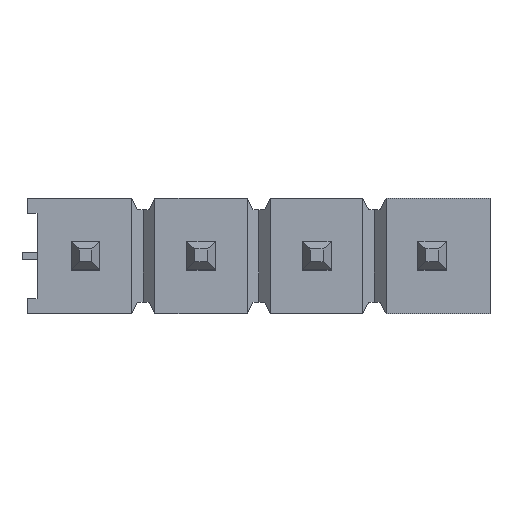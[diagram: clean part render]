
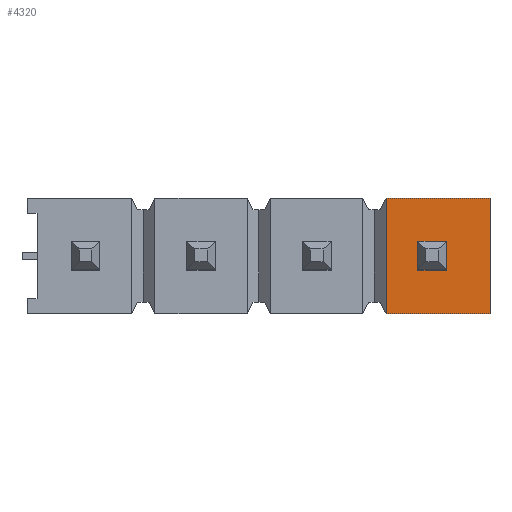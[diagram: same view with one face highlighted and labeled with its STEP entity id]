
A CAD part, top view. The second image highlights one B-rep face of the part: STEP entity #4320.
In plain terms, the highlighted planar face has unit normal (0, 0, 1).
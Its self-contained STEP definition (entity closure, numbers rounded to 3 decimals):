
#4052 = VERTEX_POINT('',#4053);
#4053 = CARTESIAN_POINT('',(2.794,-1.249,2.58));
#4059 = EDGE_CURVE('',#4060,#4052,#4062,.T.);
#4060 = VERTEX_POINT('',#4061);
#4061 = CARTESIAN_POINT('',(2.794,1.291,2.58));
#4062 = LINE('',#4063,#4064);
#4063 = CARTESIAN_POINT('',(2.794,0.021,2.58));
#4064 = VECTOR('',#4065,1.);
#4065 = DIRECTION('',(0.,-1.,0.));
#4320 = ADVANCED_FACE('',(#4321,#4346),#4380,.T.);
#4321 = FACE_BOUND('',#4322,.T.);
#4322 = EDGE_LOOP('',(#4323,#4331,#4332,#4340));
#4323 = ORIENTED_EDGE('',*,*,#4324,.T.);
#4324 = EDGE_CURVE('',#4325,#4060,#4327,.T.);
#4325 = VERTEX_POINT('',#4326);
#4326 = CARTESIAN_POINT('',(5.08,1.291,2.58));
#4327 = LINE('',#4328,#4329);
#4328 = CARTESIAN_POINT('',(5.08,1.291,2.58));
#4329 = VECTOR('',#4330,1.);
#4330 = DIRECTION('',(-1.,0.,0.));
#4331 = ORIENTED_EDGE('',*,*,#4059,.T.);
#4332 = ORIENTED_EDGE('',*,*,#4333,.T.);
#4333 = EDGE_CURVE('',#4052,#4334,#4336,.T.);
#4334 = VERTEX_POINT('',#4335);
#4335 = CARTESIAN_POINT('',(5.08,-1.249,2.58));
#4336 = LINE('',#4337,#4338);
#4337 = CARTESIAN_POINT('',(-5.08,-1.249,2.58));
#4338 = VECTOR('',#4339,1.);
#4339 = DIRECTION('',(1.,0.,0.));
#4340 = ORIENTED_EDGE('',*,*,#4341,.T.);
#4341 = EDGE_CURVE('',#4334,#4325,#4342,.T.);
#4342 = LINE('',#4343,#4344);
#4343 = CARTESIAN_POINT('',(5.08,-1.249,2.58));
#4344 = VECTOR('',#4345,1.);
#4345 = DIRECTION('',(0.,1.,0.));
#4346 = FACE_BOUND('',#4347,.T.);
#4347 = EDGE_LOOP('',(#4348,#4358,#4366,#4374));
#4348 = ORIENTED_EDGE('',*,*,#4349,.F.);
#4349 = EDGE_CURVE('',#4350,#4352,#4354,.T.);
#4350 = VERTEX_POINT('',#4351);
#4351 = CARTESIAN_POINT('',(4.128,0.339,2.58));
#4352 = VERTEX_POINT('',#4353);
#4353 = CARTESIAN_POINT('',(3.493,0.339,2.58));
#4354 = LINE('',#4355,#4356);
#4355 = CARTESIAN_POINT('',(4.128,0.339,2.58));
#4356 = VECTOR('',#4357,1.);
#4357 = DIRECTION('',(-1.,0.,0.));
#4358 = ORIENTED_EDGE('',*,*,#4359,.F.);
#4359 = EDGE_CURVE('',#4360,#4350,#4362,.T.);
#4360 = VERTEX_POINT('',#4361);
#4361 = CARTESIAN_POINT('',(4.128,-0.297,2.58));
#4362 = LINE('',#4363,#4364);
#4363 = CARTESIAN_POINT('',(4.128,-0.297,2.58));
#4364 = VECTOR('',#4365,1.);
#4365 = DIRECTION('',(0.,1.,0.));
#4366 = ORIENTED_EDGE('',*,*,#4367,.F.);
#4367 = EDGE_CURVE('',#4368,#4360,#4370,.T.);
#4368 = VERTEX_POINT('',#4369);
#4369 = CARTESIAN_POINT('',(3.493,-0.297,2.58));
#4370 = LINE('',#4371,#4372);
#4371 = CARTESIAN_POINT('',(3.493,-0.297,2.58));
#4372 = VECTOR('',#4373,1.);
#4373 = DIRECTION('',(1.,0.,0.));
#4374 = ORIENTED_EDGE('',*,*,#4375,.F.);
#4375 = EDGE_CURVE('',#4352,#4368,#4376,.T.);
#4376 = LINE('',#4377,#4378);
#4377 = CARTESIAN_POINT('',(3.493,0.339,2.58));
#4378 = VECTOR('',#4379,1.);
#4379 = DIRECTION('',(0.,-1.,0.));
#4380 = PLANE('',#4381);
#4381 = AXIS2_PLACEMENT_3D('',#4382,#4383,#4384);
#4382 = CARTESIAN_POINT('',(0.,0.021,2.58));
#4383 = DIRECTION('',(0.,0.,1.));
#4384 = DIRECTION('',(0.,-1.,0.));
